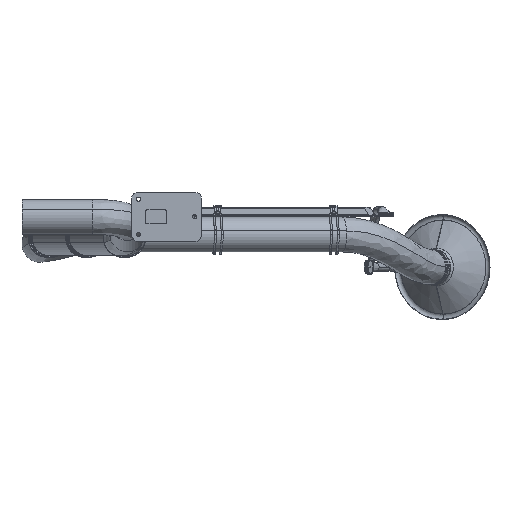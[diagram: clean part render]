
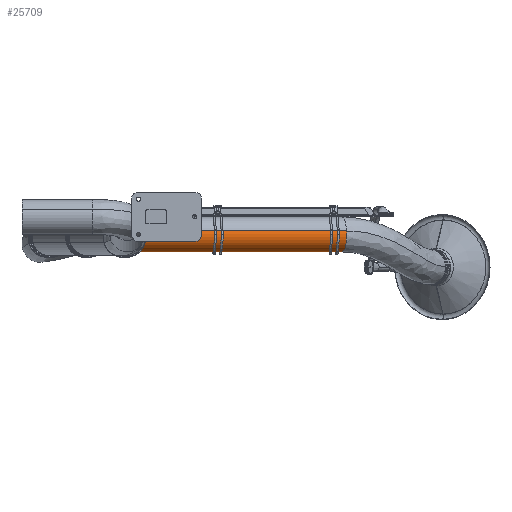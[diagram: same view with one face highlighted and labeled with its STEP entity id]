
A CAD part, left-side view. The second image highlights one B-rep face of the part: STEP entity #25709.
In plain terms, the highlighted free-form (B-spline) face has degree [3, 3] with [7, 6] control points.
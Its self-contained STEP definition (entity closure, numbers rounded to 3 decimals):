
#24584=CARTESIAN_POINT('',(1384.284,-529.773,-50.));
#24585=DIRECTION('',(-0.259,0.966,0.));
#24586=DIRECTION('',(0.947,0.254,-0.196));
#24587=AXIS2_PLACEMENT_3D('',#24584,#24585,#24586);
#24592=CARTESIAN_POINT('',(1431.641,-517.083,
-59.809));
#24593=CARTESIAN_POINT('',(1411.223,-440.882,
-59.809));
#24594=CARTESIAN_POINT('',(1370.387,-288.481,
-59.809));
#24595=CARTESIAN_POINT('',(1309.134,-59.878,
-59.809));
#24596=CARTESIAN_POINT('',(1268.298,92.523,
-59.809));
#24597=CARTESIAN_POINT('',(1247.88,168.724,
-59.809));
#24610=CARTESIAN_POINT('',(1336.926,-542.462,
-40.191));
#24611=CARTESIAN_POINT('',(1316.508,-466.261,
-40.191));
#24612=CARTESIAN_POINT('',(1275.672,-313.86,
-40.191));
#24613=CARTESIAN_POINT('',(1214.418,-85.257,
-40.191));
#24614=CARTESIAN_POINT('',(1173.582,67.144,
-40.191));
#24615=CARTESIAN_POINT('',(1153.164,143.345,
-40.191));
#24708=CARTESIAN_POINT('',(1200.522,156.035,-50.));
#24709=DIRECTION('',(-0.259,0.966,0.));
#24710=DIRECTION('',(0.947,0.254,-0.196));
#24711=AXIS2_PLACEMENT_3D('',#24708,#24709,#24710);
#25216=CARTESIAN_POINT('',(1431.641,-517.083,
-59.809));
#25217=CARTESIAN_POINT('',(1336.926,-542.462,
-40.191));
#25218=VERTEX_POINT('',#25216);
#25219=VERTEX_POINT('',#25217);
#25220=CARTESIAN_POINT('',(1247.88,168.724,
-59.809));
#25221=CARTESIAN_POINT('',(1153.164,143.345,
-40.191));
#25222=VERTEX_POINT('',#25220);
#25223=VERTEX_POINT('',#25221);
#25657=CARTESIAN_POINT('',(1435.818,-530.665,
-56.712));
#25658=CARTESIAN_POINT('',(1434.593,-526.093,
-56.712));
#25659=CARTESIAN_POINT('',(1372.114,-292.918,
-56.712));
#25660=CARTESIAN_POINT('',(1308.41,-55.172,
-56.712));
#25661=CARTESIAN_POINT('',(1245.931,178.003,
-56.712));
#25662=CARTESIAN_POINT('',(1244.706,182.575,
-56.712));
#25663=CARTESIAN_POINT('',(1431.828,-531.734,
-87.203));
#25664=CARTESIAN_POINT('',(1430.603,-527.162,
-87.203));
#25665=CARTESIAN_POINT('',(1368.124,-293.987,
-87.203));
#25666=CARTESIAN_POINT('',(1304.42,-56.241,
-87.203));
#25667=CARTESIAN_POINT('',(1241.942,176.934,
-87.203));
#25668=CARTESIAN_POINT('',(1240.716,181.506,
-87.203));
#25669=CARTESIAN_POINT('',(1407.628,-538.219,
-105.065));
#25670=CARTESIAN_POINT('',(1406.402,-533.646,
-105.065));
#25671=CARTESIAN_POINT('',(1343.924,-300.472,
-105.065));
#25672=CARTESIAN_POINT('',(1280.22,-62.725,
-105.065));
#25673=CARTESIAN_POINT('',(1217.741,170.449,
-105.065));
#25674=CARTESIAN_POINT('',(1216.516,175.021,
-105.065));
#25675=CARTESIAN_POINT('',(1378.484,-546.028,
-99.028));
#25676=CARTESIAN_POINT('',(1377.259,-541.456,
-99.028));
#25677=CARTESIAN_POINT('',(1314.78,-308.281,
-99.028));
#25678=CARTESIAN_POINT('',(1251.076,-70.535,
-99.028));
#25679=CARTESIAN_POINT('',(1188.597,162.64,
-99.028));
#25680=CARTESIAN_POINT('',(1187.372,167.212,
-99.028));
#25681=CARTESIAN_POINT('',(1349.34,-553.837,
-92.992));
#25682=CARTESIAN_POINT('',(1348.115,-549.265,
-92.992));
#25683=CARTESIAN_POINT('',(1285.636,-316.09,
-92.992));
#25684=CARTESIAN_POINT('',(1221.932,-78.344,
-92.992));
#25685=CARTESIAN_POINT('',(1159.453,154.831,
-92.992));
#25686=CARTESIAN_POINT('',(1158.228,159.403,
-92.992));
#25687=CARTESIAN_POINT('',(1333.64,-558.043,
-66.865));
#25688=CARTESIAN_POINT('',(1332.415,-553.471,
-66.865));
#25689=CARTESIAN_POINT('',(1269.936,-320.297,
-66.865));
#25690=CARTESIAN_POINT('',(1206.232,-82.55,
-66.865));
#25691=CARTESIAN_POINT('',(1143.753,150.624,
-66.865));
#25692=CARTESIAN_POINT('',(1142.528,155.196,
-66.865));
#25693=CARTESIAN_POINT('',(1341.289,-555.994,
-37.131));
#25694=CARTESIAN_POINT('',(1340.064,-551.422,
-37.131));
#25695=CARTESIAN_POINT('',(1277.585,-318.247,
-37.131));
#25696=CARTESIAN_POINT('',(1213.881,-80.501,
-37.131));
#25697=CARTESIAN_POINT('',(1151.403,152.674,
-37.131));
#25698=CARTESIAN_POINT('',(1150.177,157.246,
-37.131));
#25699=(BOUNDED_SURFACE()B_SPLINE_SURFACE(3,3,((#25657,#25658,#25659,#25660,
#25661,#25662),(#25663,#25664,#25665,#25666,#25667,#25668),(#25669,#25670,
#25671,#25672,#25673,#25674),(#25675,#25676,#25677,#25678,#25679,#25680),
(#25681,#25682,#25683,#25684,#25685,#25686),(#25687,#25688,#25689,#25690,#25691,
#25692),(#25693,#25694,#25695,#25696,#25697,#25698)),.UNSPECIFIED.,.F.,.F.,.F.)B_SPLINE_SURFACE_WITH_KNOTS((4,3,4),(4,1,1,4),(0.,1.,2.),(-0.02,0.,1.,
1.02),.UNSPECIFIED.)GEOMETRIC_REPRESENTATION_ITEM()RATIONAL_B_SPLINE_SURFACE((
(1.187,1.187,1.187,1.187,
1.187,1.187),(0.938,0.938,
0.938,0.938,0.938,0.938),(
0.938,0.938,0.938,0.938,
0.938,0.938),(1.187,1.187,
1.187,1.187,1.187,1.187),(
0.938,0.938,0.938,0.938,
0.938,0.938),(0.938,0.938,
0.938,0.938,0.938,0.938),(
1.187,1.187,1.187,1.187,
1.187,1.187)))REPRESENTATION_ITEM('')SURFACE());
#25700=ORIENTED_EDGE('',*,*,#25644,.F.);
#25702=ORIENTED_EDGE('',*,*,#25701,.T.);
#25704=ORIENTED_EDGE('',*,*,#25703,.T.);
#25706=ORIENTED_EDGE('',*,*,#25705,.F.);
#25707=EDGE_LOOP('',(#25700,#25702,#25704,#25706));
#25708=FACE_OUTER_BOUND('',#25707,.F.);
#24588=CIRCLE('',#24587,50.);
#24598=B_SPLINE_CURVE_WITH_KNOTS('',3,(#24592,#24593,#24594,#24595,#24596,
#24597),.UNSPECIFIED.,.F.,.F.,(4,1,1,4),(0.,0.333,
0.667,1.),.UNSPECIFIED.);
#24616=B_SPLINE_CURVE_WITH_KNOTS('',3,(#24610,#24611,#24612,#24613,#24614,
#24615),.UNSPECIFIED.,.F.,.F.,(4,1,1,4),(0.,0.333,
0.667,1.),.UNSPECIFIED.);
#24712=CIRCLE('',#24711,50.);
#25644=EDGE_CURVE('',#25218,#25219,#24588,.T.);
#25701=EDGE_CURVE('',#25218,#25222,#24598,.T.);
#25703=EDGE_CURVE('',#25222,#25223,#24712,.T.);
#25705=EDGE_CURVE('',#25219,#25223,#24616,.T.);
#25709=ADVANCED_FACE('',(#25708),#25699,.T.);
